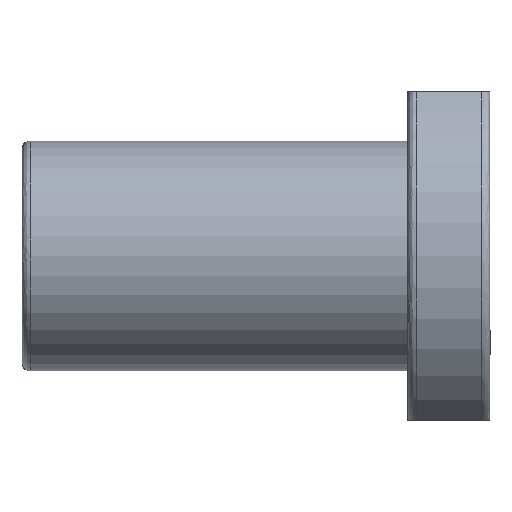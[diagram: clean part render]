
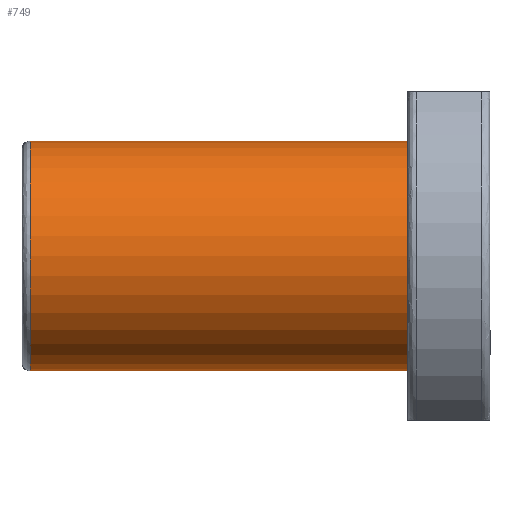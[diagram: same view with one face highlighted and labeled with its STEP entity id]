
A CAD part, top view. The second image highlights one B-rep face of the part: STEP entity #749.
In plain terms, the highlighted cylindrical face has radius 14 mm (diameter 28 mm), a partial arc.
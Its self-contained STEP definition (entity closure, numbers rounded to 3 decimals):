
#83 = CARTESIAN_POINT ( 'NONE',  ( -25., 14., 0. ) ) ;
#133 = CARTESIAN_POINT ( 'NONE',  ( -71., 14., 0. ) ) ;
#184 = CARTESIAN_POINT ( 'NONE',  ( -71., 0., 0. ) ) ;
#248 = VERTEX_POINT ( 'NONE', #863 ) ;
#323 = CYLINDRICAL_SURFACE ( 'NONE', #1270, 14. ) ;
#373 = DIRECTION ( 'NONE',  ( 0., 1., 0. ) ) ;
#415 = CIRCLE ( 'NONE', #1725, 14. ) ;
#445 = VECTOR ( 'NONE', #1093, 1000. ) ;
#448 = AXIS2_PLACEMENT_3D ( 'NONE', #184, #1262, #1017 ) ;
#460 = ORIENTED_EDGE ( 'NONE', *, *, #594, .T. ) ;
#551 = LINE ( 'NONE', #133, #445 ) ;
#589 = VECTOR ( 'NONE', #1212, 1000. ) ;
#594 = EDGE_CURVE ( 'NONE', #1036, #248, #1493, .T. ) ;
#634 = EDGE_LOOP ( 'NONE', ( #1646, #460, #1707, #1133 ) ) ;
#635 = DIRECTION ( 'NONE',  ( -1., 0., 0. ) ) ;
#736 = VERTEX_POINT ( 'NONE', #83 ) ;
#740 = CARTESIAN_POINT ( 'NONE',  ( -71., 0., 0. ) ) ;
#749 = ADVANCED_FACE ( 'NONE', ( #1716 ), #323, .T. ) ;
#863 = CARTESIAN_POINT ( 'NONE',  ( -25., -14., 0. ) ) ;
#938 = CARTESIAN_POINT ( 'NONE',  ( -71., -14., 0. ) ) ;
#945 = EDGE_CURVE ( 'NONE', #248, #736, #415, .T. ) ;
#1017 = DIRECTION ( 'NONE',  ( 0., 1., 0. ) ) ;
#1036 = VERTEX_POINT ( 'NONE', #938 ) ;
#1093 = DIRECTION ( 'NONE',  ( 1., 0., 0. ) ) ;
#1133 = ORIENTED_EDGE ( 'NONE', *, *, #1163, .F. ) ;
#1163 = EDGE_CURVE ( 'NONE', #1546, #736, #551, .T. ) ;
#1177 = CARTESIAN_POINT ( 'NONE',  ( -25., 0., 0. ) ) ;
#1212 = DIRECTION ( 'NONE',  ( 1., 0., 0. ) ) ;
#1262 = DIRECTION ( 'NONE',  ( 1., 0., 0. ) ) ;
#1270 = AXIS2_PLACEMENT_3D ( 'NONE', #740, #1279, #373 ) ;
#1279 = DIRECTION ( 'NONE',  ( 1., 0., 0. ) ) ;
#1361 = CARTESIAN_POINT ( 'NONE',  ( -71., 14., 0. ) ) ;
#1379 = CARTESIAN_POINT ( 'NONE',  ( -71., -14., 0. ) ) ;
#1439 = CIRCLE ( 'NONE', #448, 14. ) ;
#1493 = LINE ( 'NONE', #1379, #589 ) ;
#1546 = VERTEX_POINT ( 'NONE', #1361 ) ;
#1646 = ORIENTED_EDGE ( 'NONE', *, *, #1655, .T. ) ;
#1655 = EDGE_CURVE ( 'NONE', #1546, #1036, #1439, .T. ) ;
#1707 = ORIENTED_EDGE ( 'NONE', *, *, #945, .T. ) ;
#1716 = FACE_OUTER_BOUND ( 'NONE', #634, .T. ) ;
#1725 = AXIS2_PLACEMENT_3D ( 'NONE', #1177, #635, #1743 ) ;
#1743 = DIRECTION ( 'NONE',  ( 0., 1., 0. ) ) ;
